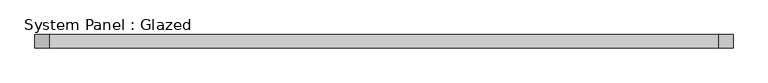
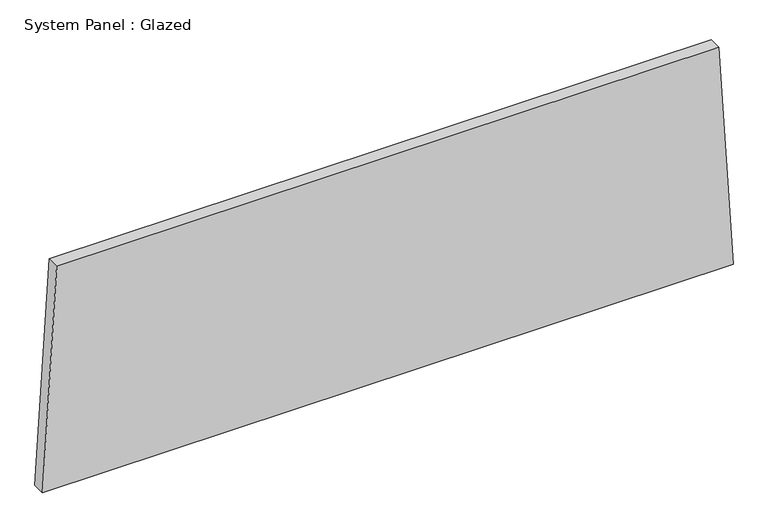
"""IFC4 building model written with IfcOpenShell, lengths in millimetres: plate geometry, System Panel : Glazed."""

from ifc_helpers import new_model, si_unit, frame, origin, place, context, project, spatial, polyline, outline, extrude, source, transform, mapped, element, save


def system_panel_glazed_fbc1d6e8(model_context):
    return source(origin(), model_context, "Body", "SweptSolid", [
        extrude(outline(polyline([(0.0, -674.2686327), (0.0, 674.2686327), (457.7126706, 646.7499351), (457.7126706, -646.7499351), (0.0, -674.2686327)])), frame((0.0, 19.05, 0.0), z_axis=(0.0, 1.0, 0.0), x_axis=(0.0, 0.0, 1.0)), (0.0, 0.0, 1.0), 25.4),
    ])


if __name__ == "__main__":
    model = new_model("IFC4")
    model_context = context("Model", 3, world=origin())
    ifc_project = project(units=[si_unit("LENGTHUNIT", "METRE", prefix="MILLI")], contexts=[model_context])
    site = spatial("IfcSite", under=ifc_project)
    building = spatial("IfcBuilding", under=site)
    placement = place(None, origin())
    system_panel_glazed_shape = system_panel_glazed_fbc1d6e8(model_context)
    element("IfcPlate", 1, ObjectType="System Panel : Glazed", at=placement, inside=building, context=model_context, shape_type="MappedRepresentation", body=[
        mapped(system_panel_glazed_shape, transform((0.0, 0.0, 0.0), x_axis=(1.0, 0.0, 0.0), y_axis=(0.0, 1.0, 0.0), z_axis=(0.0, 0.0, 1.0))),
    ])
    save(model, "model.ifc")
